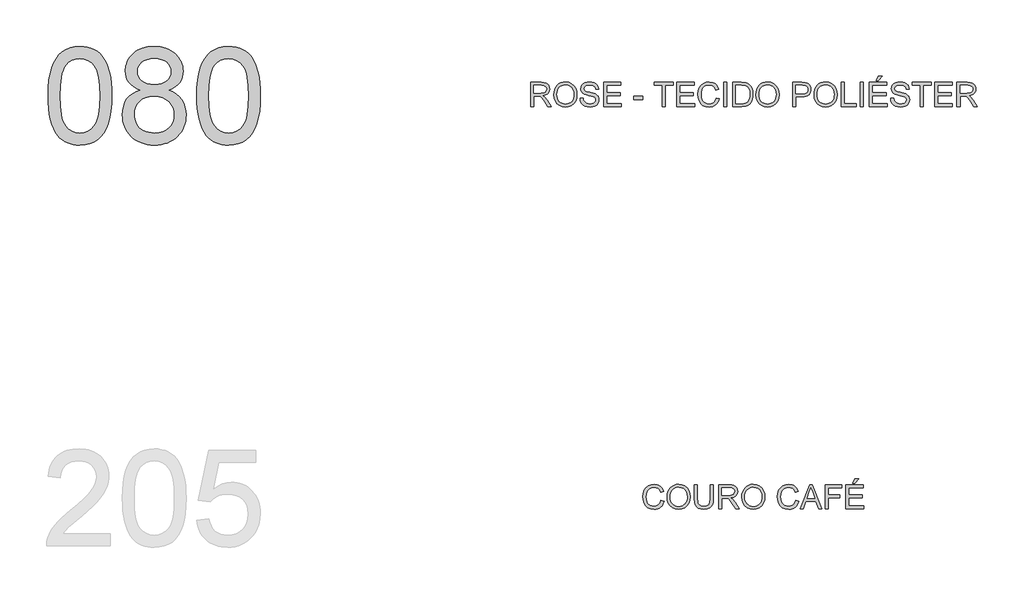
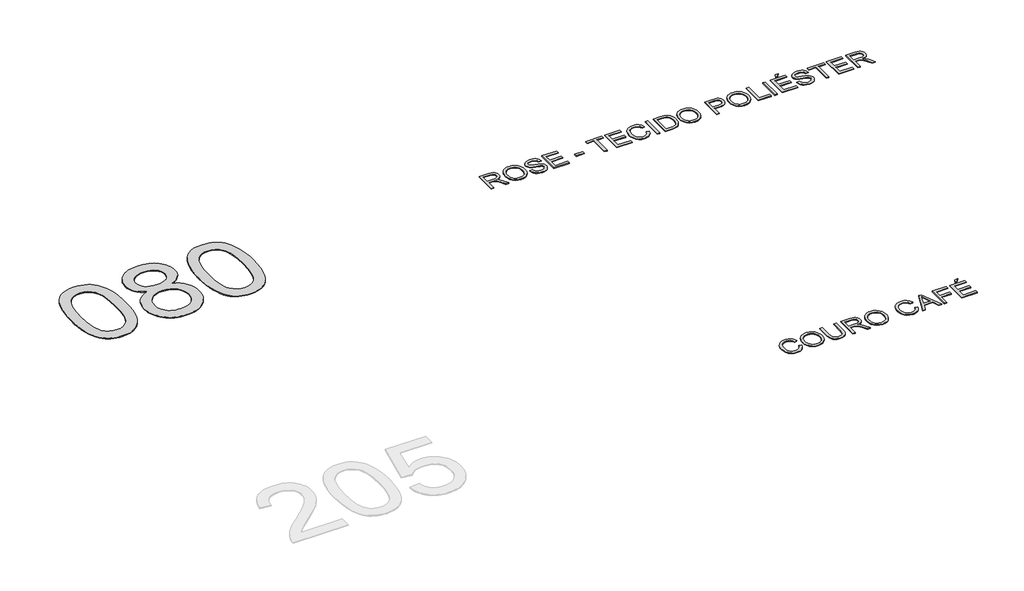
# One storey, part 4 of 35: 3 proxies.
"""IFC4 building model written with IfcOpenShell, lengths in millimetres."""

from ifc_helpers import new_model, si_unit, origin, origin_with_axes, place, context, project, spatial, polyline, outline, extrude, element, save

model = new_model("IFC4")

# Units and contexts
model_context = context("Model", 3, world=origin())
ifc_project = project(units=[si_unit("LENGTHUNIT", "METRE", prefix="MILLI")], contexts=[model_context])

# Site, building, storey
site = spatial("IfcSite", under=ifc_project)
building = spatial("IfcBuilding", under=site)
storey = spatial("IfcBuildingStorey", under=building, Name="Marelli - Linha YOU - Planta Baixa", Elevation=0.0)

# Proxies
placement = place(None, origin())
element("IfcBuildingElementProxy", 1, Name="1200mm Arial", ObjectType="1200mm Arial", at=placement, inside=storey, context=model_context, shape_type="SweptSolid", body=[
    extrude(outline(polyline([(-25181.1313792, -124895.792664), (-25178.3630672, -124794.4319773), (-25170.0581311, -124702.8385576), (-25156.2165711, -124621.0124048), (-25136.838387, -124548.953519), (-25112.0063523, -124486.073289), (-25081.8032405, -124431.7831035), (-25046.2290516, -124386.0829627), (-25005.2837855, -124348.9728664), (-24958.8294866, -124320.2596767), (-24906.728199, -124299.7502555), (-24848.9799228, -124287.4446027), (-24785.584658, -124283.3427185), (-24737.9439396, -124285.7707396), (-24692.7312424, -124293.0548031), (-24649.9465664, -124305.194909), (-24609.5899115, -124322.1910572), (-24572.6361651, -124343.7581391), (-24540.0602144, -124369.6110463), (-24511.8620595, -124399.7497788), (-24488.0417003, -124434.1743365), (-24467.4035204, -124472.7467637), (-24448.7519032, -124515.3291046), (-24417.4083572, -124612.5235278), (-24405.4337983, -124669.6831928), (-24396.8805419, -124735.9479371), (-24391.7485881, -124811.3177609), (-24390.0379368, -124895.792664), (-24392.7786576, -124996.5095573), (-24401.0008202, -125087.6431245), (-24414.7044246, -125169.1933658), (-24433.8894706, -125241.1602811), (-24458.5283672, -125304.0681023), (-24488.5935233, -125358.4410612), (-24524.0849388, -125404.2791578), (-24565.0026137, -125441.5823921), (-24611.5120949, -125470.4887199), (-24663.7789294, -125491.1360968), (-24721.8031171, -125503.524523), (-24785.584658, -125507.6539984), (-24828.2589694, -125505.8605737), (-24868.5788361, -125500.4802995), (-24906.544258, -125491.5131759), (-24942.1552351, -125478.9592028), (-24975.4117675, -125462.8183803), (-25006.3138551, -125443.0907083), (-25034.8614979, -125419.7761868), (-25061.054696, -125392.8748159), (-25089.1976686, -125350.2786794), (-25113.5882449, -125302.0999336), (-25134.2264248, -125248.3385785), (-25151.1122084, -125188.9946142), (-25164.2455956, -125124.0680406), (-25173.6265865, -125053.5588577), (-25179.255181, -124977.4670655), (-25181.1313792, -124895.792664)]), holes=[polyline([(-25030.446914, -124895.4983584), (-25026.03233, -125026.4919399), (-25012.7885782, -125132.5247279), (-25002.8557643, -125176.1808245), (-24990.7156585, -125213.5967226), (-24976.3682607, -125244.7724225), (-24959.8135709, -125269.7079239), (-24922.4367602, -125307.884878), (-24880.9396711, -125335.1541309), (-24835.3223037, -125351.5156826), (-24785.584658, -125356.9695332), (-24735.8470122, -125351.4972885), (-24690.2296448, -125335.0805545), (-24648.7325558, -125307.7193311), (-24611.3557451, -125269.4136183), (-24594.8010553, -125244.418336), (-24580.4536575, -125213.2104465), (-24568.3135516, -125175.7899498), (-24558.3807378, -125132.1568459), (-24545.1369859, -125026.2528166), (-24540.722402, -124895.4983584), (-24544.9898331, -124767.9720648), (-24557.7921266, -124663.8062779), (-24567.3938467, -124620.4835744), (-24579.1292823, -124583.0009976), (-24592.9984335, -124551.3585475), (-24609.0013003, -124525.5562241), (-24645.7527116, -124485.5122689), (-24687.7280473, -124456.9094438), (-24734.9273073, -124439.7477487), (-24787.3504916, -124434.0271837), (-24836.8306199, -124439.067167), (-24881.6754351, -124454.187117), (-24921.8849372, -124479.3870337), (-24957.4591261, -124514.666917), (-24974.5656389, -124543.2145599), (-24989.3912833, -124577.2068562), (-25001.9360594, -124616.6438061), (-25012.199967, -124661.5254095), (-25025.8851772, -124767.6225769), (-25030.446914, -124895.4983584)])]), origin_with_axes(), (0.0, 0.0, 1.0), 10.0),
    extrude(outline(polyline([(-24038.637055, -124824.8650154), (-24081.9827511, -124806.7652212), (-24119.3135765, -124785.1337599), (-24150.6295314, -124759.9706314), (-24175.9306156, -124731.2758358), (-24195.4375584, -124699.3252845), (-24209.3710889, -124664.3948891), (-24217.7312073, -124626.4846495), (-24220.5179134, -124585.5945657), (-24214.4478605, -124524.1398784), (-24206.8602943, -124495.3301197), (-24196.2377017, -124467.7987509), (-24182.5800826, -124441.545772), (-24165.8874371, -124416.571183), (-24123.3970667, -124370.4571749), (-24098.109778, -124350.0397242), (-24070.8083355, -124332.3446002), (-24041.492739, -124317.371803), (-24010.1629886, -124305.1213326), (-23941.461026, -124288.787372), (-23864.7024477, -124283.3427185), (-23787.5759874, -124288.9161307), (-23718.35899, -124305.6363674), (-23686.7165399, -124318.1765449), (-23657.0514555, -124333.5034285), (-23629.3637368, -124351.6170183), (-23603.6533839, -124372.5173141), (-23560.3904613, -124419.5326331), (-23543.3943131, -124444.8613085), (-23529.4883737, -124471.4039944), (-23518.672643, -124499.1606909), (-23510.9471211, -124528.1313981), (-23506.311808, -124558.3161158), (-23504.7667036, -124589.7148441), (-23507.5166215, -124629.160991), (-23515.7663752, -124665.9767817), (-23529.5159648, -124700.1622161), (-23548.7653902, -124731.7172942), (-23573.6066219, -124760.2189518), (-23604.1316305, -124785.2441245), (-23640.3404159, -124806.7928124), (-23682.2329781, -124824.8650154), (-23632.7068645, -124845.9354566), (-23589.4899271, -124872.6528865), (-23552.5821659, -124905.0173051), (-23521.983581, -124943.0287122), (-23497.9700837, -124985.8409794), (-23480.8175857, -125032.607978), (-23470.5260869, -125083.3297081), (-23467.0955873, -125138.0061697), (-23468.7970415, -125176.3670647), (-23473.9014042, -125213.1644613), (-23482.4086753, -125248.3983594), (-23494.3188549, -125282.068759), (-23509.631943, -125314.1756601), (-23528.3479395, -125344.7190628), (-23550.4668444, -125373.6989669), (-23575.9886578, -125401.1153726), (-23604.2879803, -125426.085363), (-23634.7394125, -125447.7260214), (-23667.3429543, -125466.0373477), (-23702.0986058, -125481.019342), (-23739.006367, -125492.6720042), (-23778.0662378, -125500.9953343), (-23819.2782183, -125505.9893324), (-23862.6423085, -125507.6539984), (-23906.0063987, -125505.9824346), (-23947.2183792, -125500.9677432), (-23986.27825, -125492.6099241), (-24023.1860112, -125480.9089774), (-24057.9416627, -125465.864903), (-24090.5452045, -125447.4777011), (-24120.9966367, -125425.7473715), (-24149.2959591, -125400.6739142), (-24174.8177725, -125373.1034579), (-24196.9366775, -125343.8821312), (-24215.652674, -125313.009934), (-24230.9657621, -125280.4868664), (-24242.8759417, -125246.3129283), (-24251.3832128, -125210.4881198), (-24256.4875755, -125173.0124408), (-24258.1890297, -125133.8858913), (-24254.6205744, -125076.7170293), (-24243.9152083, -125024.4042096), (-24226.0729315, -124976.9474322), (-24201.0937441, -124934.3466971), (-24169.5294689, -124897.3745566), (-24131.931929, -124866.8035628), (-24088.3011243, -124842.6337157), (-24038.637055, -124824.8650154)]), holes=[polyline([(-24069.8334482, -124590.0091497), (-24066.4949191, -124624.553269), (-24056.4793317, -124655.7864504), (-24039.7866862, -124683.7086938), (-24016.4169825, -124708.3199993), (-23986.6645261, -124728.4063562), (-23950.8236227, -124742.753754), (-23908.8942723, -124751.3621927), (-23860.8764749, -124754.2316723), (-23814.0450969, -124751.3805868), (-23773.0262545, -124742.8273304), (-23737.8199475, -124728.5719031), (-23708.4261761, -124708.6143049), (-23685.2496104, -124684.5180342), (-23668.6949206, -124657.8465896), (-23658.7621068, -124628.5999709), (-23655.4511688, -124596.7781784), (-23658.8724714, -124563.714784), (-23669.136379, -124533.3921106), (-23686.2428918, -124505.810158), (-23710.1920097, -124480.9689263), (-23740.2479687, -124460.4319139), (-23775.6750048, -124445.7626193), (-23816.4731181, -124436.9610426), (-23862.6423085, -124434.0271837), (-23909.1701838, -124436.8966633), (-23950.1614351, -124445.5051019), (-23985.6160624, -124459.8524998), (-24015.5340657, -124479.9388567), (-24039.2900455, -124504.0351274), (-24056.2586026, -124530.4122664), (-24066.4397368, -124559.0702739), (-24069.8334482, -124590.0091497)]), polyline([(-24107.5045645, -125128.5883906), (-24105.931869, -125157.6418712), (-24101.2137824, -125186.2354992), (-24082.341436, -125242.0431979), (-24067.3410477, -125267.9328933), (-24047.5030111, -125290.7139859), (-24022.8273262, -125310.3864756), (-23993.3139932, -125326.9503624), (-23961.1243186, -125340.0837496), (-23928.4196092, -125349.4647405), (-23895.1998651, -125355.093335), (-23861.4650861, -125356.9695332), (-23806.9817626, -125353.0239988), (-23758.8995859, -125341.1873956), (-23717.2185558, -125321.4597236), (-23681.9386725, -125293.8409828), (-23653.8692762, -125260.133795), (-23633.8197075, -125222.140782), (-23621.7899662, -125179.8619437), (-23617.7800525, -125133.2972801), (-23621.9187249, -125085.9876555), (-23634.3347423, -125042.9454621), (-23655.0281045, -125004.1706998), (-23683.9988116, -124969.6633687), (-23720.2351882, -124941.336455), (-23762.7255586, -124921.1029453), (-23811.469923, -124908.9628395), (-23866.4682812, -124904.9161375), (-23920.1514614, -124908.9076572), (-23967.5990417, -124920.8822161), (-24008.8110222, -124940.8398144), (-24043.7874029, -124968.7804519), (-24071.6636611, -125002.7175659), (-24091.5752741, -125040.6645937), (-24103.5222419, -125082.6215353), (-24107.5045645, -125128.5883906)])]), origin_with_axes(), (0.0, 0.0, 1.0), 10.0),
    extrude(outline(polyline([(-23335.2466802, -124895.792664), (-23332.4783682, -124794.4319773), (-23324.1734321, -124702.8385576), (-23310.3318721, -124621.0124048), (-23290.953688, -124548.953519), (-23266.1216533, -124486.073289), (-23235.9185415, -124431.7831035), (-23200.3443526, -124386.0829627), (-23159.3990865, -124348.9728664), (-23112.9447876, -124320.2596767), (-23060.8435, -124299.7502555), (-23003.0952238, -124287.4446027), (-22939.699959, -124283.3427185), (-22892.0592406, -124285.7707396), (-22846.8465434, -124293.0548031), (-22804.0618674, -124305.194909), (-22763.7052125, -124322.1910572), (-22726.7514661, -124343.7581391), (-22694.1755154, -124369.6110463), (-22665.9773605, -124399.7497788), (-22642.1570013, -124434.1743365), (-22621.5188214, -124472.7467637), (-22602.8672042, -124515.3291046), (-22571.5236582, -124612.5235278), (-22559.5490993, -124669.6831928), (-22550.9958429, -124735.9479371), (-22545.8638891, -124811.3177609), (-22544.1532378, -124895.792664), (-22546.8939586, -124996.5095573), (-22555.1161212, -125087.6431245), (-22568.8197256, -125169.1933658), (-22588.0047716, -125241.1602811), (-22612.6436682, -125304.0681023), (-22642.7088243, -125358.4410612), (-22678.2002398, -125404.2791578), (-22719.1179147, -125441.5823921), (-22765.6273959, -125470.4887199), (-22817.8942304, -125491.1360968), (-22875.9184181, -125503.524523), (-22939.699959, -125507.6539984), (-22982.3742704, -125505.8605737), (-23022.6941371, -125500.4802995), (-23060.659559, -125491.5131759), (-23096.2705361, -125478.9592028), (-23129.5270685, -125462.8183803), (-23160.4291561, -125443.0907083), (-23188.9767989, -125419.7761868), (-23215.169997, -125392.8748159), (-23243.3129696, -125350.2786794), (-23267.7035459, -125302.0999336), (-23288.3417258, -125248.3385785), (-23305.2275094, -125188.9946142), (-23318.3608966, -125124.0680406), (-23327.7418875, -125053.5588577), (-23333.370482, -124977.4670655), (-23335.2466802, -124895.792664)]), holes=[polyline([(-23184.562215, -124895.4983584), (-23180.147631, -125026.4919399), (-23166.9038792, -125132.5247279), (-23156.9710653, -125176.1808245), (-23144.8309595, -125213.5967226), (-23130.4835617, -125244.7724225), (-23113.9288719, -125269.7079239), (-23076.5520612, -125307.884878), (-23035.0549721, -125335.1541309), (-22989.4376047, -125351.5156826), (-22939.699959, -125356.9695332), (-22889.9623132, -125351.4972885), (-22844.3449458, -125335.0805545), (-22802.8478568, -125307.7193311), (-22765.4710461, -125269.4136183), (-22748.9163563, -125244.418336), (-22734.5689585, -125213.2104465), (-22722.4288526, -125175.7899498), (-22712.4960388, -125132.1568459), (-22699.2522869, -125026.2528166), (-22694.837703, -124895.4983584), (-22699.1051341, -124767.9720648), (-22711.9074276, -124663.8062779), (-22721.5091477, -124620.4835744), (-22733.2445833, -124583.0009976), (-22747.1137345, -124551.3585475), (-22763.1166013, -124525.5562241), (-22799.8680126, -124485.5122689), (-22841.8433483, -124456.9094438), (-22889.0426083, -124439.7477487), (-22941.4657926, -124434.0271837), (-22990.9459209, -124439.067167), (-23035.7907361, -124454.187117), (-23076.0002382, -124479.3870337), (-23111.5744271, -124514.666917), (-23128.6809399, -124543.2145599), (-23143.5065843, -124577.2068562), (-23156.0513604, -124616.6438061), (-23166.315268, -124661.5254095), (-23180.0004782, -124767.6225769), (-23184.562215, -124895.4983584)])]), origin_with_axes(), (0.0, 0.0, 1.0), 10.0),
])
element("IfcBuildingElementProxy", 2, Name="300mm Arial", ObjectType="300mm Arial", at=placement, inside=storey, context=model_context, shape_type="SweptSolid", body=[
    extrude(outline(polyline([(-17570.4724751, -129923.4390831), (-17532.8013587, -129933.1511677), (-17540.2555677, -129956.5783531), (-17550.183783, -129977.0486868), (-17562.5860048, -129994.5621691), (-17577.462233, -130009.1187998), (-17594.4767752, -130020.5622291), (-17613.2939393, -130028.7361071), (-17633.9137251, -130033.640434), (-17656.3361327, -130035.2752096), (-17700.0313167, -130030.3271968), (-17734.7317859, -130015.4831583), (-17761.3296542, -129991.2581289), (-17780.7170353, -129958.1671434), (-17792.5536385, -129919.2636224), (-17796.4991729, -129877.6009865), (-17792.0386037, -129833.6574822), (-17778.6568961, -129795.7104543), (-17757.053026, -129764.9647166), (-17727.925969, -129742.6250824), (-17693.3818496, -129729.0226457), (-17655.5267923, -129724.4885001), (-17614.2228413, -129730.3562179), (-17596.2541051, -129737.6908652), (-17580.0741951, -129747.9593714), (-17565.9498258, -129760.8904235), (-17554.1477115, -129776.2127086), (-17537.5102483, -129814.0309777), (-17575.1813646, -129823.0072984), (-17588.2411754, -129795.5357104), (-17606.0834522, -129776.6909552), (-17628.9289241, -129765.7924511), (-17656.9983203, -129762.1596164), (-17689.3535418, -129766.1879242), (-17715.9330159, -129778.2728478), (-17736.1021463, -129797.1451941), (-17749.2263365, -129821.5357704), (-17756.4276266, -129849.1085259), (-17758.8280566, -129877.5274101), (-17755.9861682, -129912.3290468), (-17747.4605029, -129942.421794), (-17732.9291641, -129966.6560205), (-17712.070255, -129983.8820949), (-17687.0634764, -129994.1735937), (-17660.0885291, -129997.6040933), (-17628.6438155, -129992.931992), (-17602.4414204, -129978.9156879), (-17582.6585661, -129955.7023341), (-17570.4724751, -129923.4390831)])), origin_with_axes(), (0.0, 0.0, 1.0), 10.0),
    extrude(outline(polyline([(-17495.1302424, -129883.8549804), (-17492.6194478, -129848.5061192), (-17485.087064, -129817.213157), (-17472.5330909, -129789.9760937), (-17454.9575286, -129766.7949295), (-17433.4134392, -129748.2858666), (-17408.9538851, -129735.0651074), (-17381.5788661, -129727.1326519), (-17351.2883823, -129724.4885001), (-17311.7594619, -129729.454907), (-17276.3140317, -129744.3541278), (-17246.8834721, -129768.1376988), (-17225.3991636, -129799.7571563), (-17212.2657764, -129837.68579), (-17207.8879806, -129880.3968896), (-17212.4957026, -129923.6782064), (-17226.3188686, -129962.140269), (-17248.5941234, -129993.8149088), (-17278.5581119, -130016.7339571), (-17313.7000395, -130030.6398965), (-17351.5091115, -130035.2752096), (-17391.6450372, -130030.1524528), (-17427.2928025, -130014.7841825), (-17456.6497857, -129990.5591531), (-17477.9133651, -129958.8661192), (-17490.8260231, -129922.3998164), (-17495.1302424, -129883.8549804)]), holes=[polyline([(-17457.4591261, -129884.2228624), (-17455.5760302, -129909.1974513), (-17449.9267423, -129931.3669401), (-17440.5112625, -129950.7313286), (-17427.3295907, -129967.2906169), (-17411.3060306, -129980.5527628), (-17393.3648855, -129990.0257242), (-17373.5061556, -129995.709501), (-17351.7298407, -129997.6040933), (-17329.5810454, -129995.6911069), (-17309.4877906, -129989.9521478), (-17291.4500766, -129980.3872159), (-17275.4679031, -129966.9963113), (-17262.3828004, -129950.0875351), (-17253.0362985, -129929.9689885), (-17247.4283973, -129906.6406715), (-17245.5590969, -129880.102584), (-17248.7596703, -129846.7540812), (-17258.3613903, -129817.9305269), (-17274.1159368, -129794.358488), (-17295.7749893, -129776.7645316), (-17321.903808, -129765.8108452), (-17351.0676531, -129762.1596164), (-17372.0875106, -129763.9185522), (-17391.5898549, -129769.1953595), (-17409.5746859, -129777.9900385), (-17426.0420037, -129790.302589), (-17439.7869948, -129806.7262208), (-17449.6048455, -129827.8541437), (-17455.495556, -129853.6863575), (-17457.4591261, -129884.2228624)])]), origin_with_axes(), (0.0, 0.0, 1.0), 10.0),
    extrude(outline(polyline([(-16958.3168351, -129729.1973896), (-16920.6457188, -129729.1973896), (-16920.6457188, -129903.0584205), (-16923.2024986, -129943.7737604), (-16930.8728382, -129975.1265034), (-16945.201842, -129999.3147446), (-16967.7346142, -130018.5365788), (-16998.5263372, -130031.0905519), (-17037.6321932, -130035.2752096), (-17075.8827237, -130031.6331779), (-17106.4629145, -130020.7070826), (-17129.3819628, -130002.8740029), (-17144.6490656, -129978.5110178), (-17153.2299132, -129945.8338995), (-17156.0901957, -129903.0584205), (-17156.0901957, -129729.1973896), (-17118.4190794, -129729.1973896), (-17118.4190794, -129901.7340454), (-17116.5612753, -129935.588386), (-17110.9878631, -129959.1604248), (-17100.8895023, -129975.4851883), (-17085.4568526, -129987.597703), (-17065.3337075, -129995.1024957), (-17041.1638604, -129997.6040933), (-17002.8489506, -129992.6560805), (-16988.5061513, -129986.4710644), (-16977.3731224, -129977.812042), (-16969.0359967, -129965.6351479), (-16963.0809069, -129948.8965171), (-16958.3168351, -129901.7340454), (-16958.3168351, -129729.1973896)])), origin_with_axes(), (0.0, 0.0, 1.0), 10.0),
    extrude(outline(polyline([(-16854.7212652, -130030.5663201), (-16854.7212652, -129729.1973896), (-16724.8589209, -129729.1973896), (-16689.9561166, -129731.2299376), (-16664.5630619, -129737.3275817), (-16646.0034153, -129748.5847708), (-16631.6008352, -129766.0959537), (-16622.3578, -129787.8101885), (-16619.2767883, -129811.6765329), (-16624.381151, -129841.3646099), (-16639.6942391, -129865.9759154), (-16651.2940182, -129876.0052983), (-16665.675905, -129884.0205273), (-16702.7860012, -129894.0085235), (-16681.3752691, -129910.1217548), (-16650.8410635, -129948.8965171), (-16600.588383, -130030.5663201), (-16644.3663404, -130030.5663201), (-16683.5825611, -129968.0999573), (-16711.9094747, -129926.750021), (-16731.8118907, -129907.2154871), (-16749.7277438, -129900.0417882), (-16771.5799343, -129898.717413), (-16817.0501489, -129898.717413), (-16817.0501489, -130030.5663201), (-16854.7212652, -130030.5663201)]), holes=[polyline([(-16817.0501489, -129861.0462967), (-16732.7315956, -129861.0462967), (-16708.5157633, -129859.7127245), (-16689.7261904, -129855.7120078), (-16675.5811277, -129848.7774322), (-16665.2988259, -129838.6422832), (-16659.035635, -129826.3826157), (-16656.9479046, -129813.0744845), (-16660.9302272, -129794.6987789), (-16672.877195, -129779.8915286), (-16693.4326015, -129770.1242616), (-16723.2402402, -129766.8685059), (-16817.0501489, -129766.8685059), (-16817.0501489, -129861.0462967)])]), origin_with_axes(), (0.0, 0.0, 1.0), 10.0),
    extrude(outline(polyline([(-16567.4790034, -129883.8549804), (-16564.9682088, -129848.5061192), (-16557.4358249, -129817.213157), (-16544.8818519, -129789.9760937), (-16527.3062895, -129766.7949295), (-16505.7622002, -129748.2858666), (-16481.302646, -129735.0651074), (-16453.9276271, -129727.1326519), (-16423.6371433, -129724.4885001), (-16384.1082229, -129729.454907), (-16348.6627927, -129744.3541278), (-16319.2322331, -129768.1376988), (-16297.7479245, -129799.7571563), (-16284.6145373, -129837.68579), (-16280.2367416, -129880.3968896), (-16284.8444636, -129923.6782064), (-16298.6676295, -129962.140269), (-16320.9428843, -129993.8149088), (-16350.9068728, -130016.7339571), (-16386.0488004, -130030.6398965), (-16423.8578725, -130035.2752096), (-16463.9937982, -130030.1524528), (-16499.6415635, -130014.7841825), (-16528.9985467, -129990.5591531), (-16550.262126, -129958.8661192), (-16563.1747841, -129922.3998164), (-16567.4790034, -129883.8549804)]), holes=[polyline([(-16529.8078871, -129884.2228624), (-16527.9247911, -129909.1974513), (-16522.2755032, -129931.3669401), (-16512.8600234, -129950.7313286), (-16499.6783517, -129967.2906169), (-16483.6547915, -129980.5527628), (-16465.7136465, -129990.0257242), (-16445.8549165, -129995.709501), (-16424.0786017, -129997.6040933), (-16401.9298063, -129995.6911069), (-16381.8365516, -129989.9521478), (-16363.7988375, -129980.3872159), (-16347.8166641, -129966.9963113), (-16334.7315614, -129950.0875351), (-16325.3850594, -129929.9689885), (-16319.7771583, -129906.6406715), (-16317.9078579, -129880.102584), (-16321.1084312, -129846.7540812), (-16330.7101513, -129817.9305269), (-16346.4646978, -129794.358488), (-16368.1237502, -129776.7645316), (-16394.2525689, -129765.8108452), (-16423.4164141, -129762.1596164), (-16444.4362716, -129763.9185522), (-16463.9386159, -129769.1953595), (-16481.9234469, -129777.9900385), (-16498.3907647, -129790.302589), (-16512.1357558, -129806.7262208), (-16521.9536065, -129827.8541437), (-16527.8443169, -129853.6863575), (-16529.8078871, -129884.2228624)])]), origin_with_axes(), (0.0, 0.0, 1.0), 10.0),
    extrude(outline(polyline([(-15898.816689, -129923.4390831), (-15861.1455727, -129933.1511677), (-15868.5997816, -129956.5783531), (-15878.5279969, -129977.0486868), (-15890.9302187, -129994.5621691), (-15905.8064469, -130009.1187998), (-15922.8209892, -130020.5622291), (-15941.6381532, -130028.7361071), (-15962.257939, -130033.640434), (-15984.6803466, -130035.2752096), (-16028.3755306, -130030.3271968), (-16063.0759998, -130015.4831583), (-16089.6738681, -129991.2581289), (-16109.0612492, -129958.1671434), (-16120.8978524, -129919.2636224), (-16124.8433868, -129877.6009865), (-16120.3828176, -129833.6574822), (-16107.00111, -129795.7104543), (-16085.3972399, -129764.9647166), (-16056.2701829, -129742.6250824), (-16021.7260636, -129729.0226457), (-15983.8710063, -129724.4885001), (-15942.5670552, -129730.3562179), (-15924.598319, -129737.6908652), (-15908.418409, -129747.9593714), (-15894.2940397, -129760.8904235), (-15882.4919254, -129776.2127086), (-15865.8544622, -129814.0309777), (-15903.5255785, -129823.0072984), (-15916.5853893, -129795.5357104), (-15934.4276661, -129776.6909552), (-15957.273138, -129765.7924511), (-15985.3425342, -129762.1596164), (-16017.6977557, -129766.1879242), (-16044.2772299, -129778.2728478), (-16064.4463603, -129797.1451941), (-16077.5705504, -129821.5357704), (-16084.7718405, -129849.1085259), (-16087.1722705, -129877.5274101), (-16084.3303821, -129912.3290468), (-16075.8047169, -129942.421794), (-16061.273378, -129966.6560205), (-16040.4144689, -129983.8820949), (-16015.4076903, -129994.1735937), (-15988.432743, -129997.6040933), (-15956.9880295, -129992.931992), (-15930.7856344, -129978.9156879), (-15911.0027801, -129955.7023341), (-15898.816689, -129923.4390831)])), origin_with_axes(), (0.0, 0.0, 1.0), 10.0),
    extrude(outline(polyline([(-15844.4437301, -130030.5663201), (-15724.1463177, -129729.1973896), (-15692.0670077, -129729.1973896), (-15571.7695953, -130030.5663201), (-15611.5744271, -130030.5663201), (-15646.0817583, -129936.3885293), (-15770.2051435, -129936.3885293), (-15804.6388982, -130030.5663201), (-15844.4437301, -130030.5663201)]), holes=[polyline([(-15756.3727804, -129898.717413), (-15659.8405449, -129898.717413), (-15686.9902361, -129824.6259792), (-15708.1066627, -129766.8685059), (-15726.8686444, -129818.1512561), (-15756.3727804, -129898.717413)])]), origin_with_axes(), (0.0, 0.0, 1.0), 10.0),
    extrude(outline(polyline([(-15531.523305, -130030.5663201), (-15531.523305, -129729.1973896), (-15329.0410548, -129729.1973896), (-15329.0410548, -129766.8685059), (-15493.8521887, -129766.8685059), (-15493.8521887, -129856.3374072), (-15352.5855025, -129856.3374072), (-15352.5855025, -129894.0085235), (-15493.8521887, -129894.0085235), (-15493.8521887, -130030.5663201), (-15531.523305, -130030.5663201)])), origin_with_axes(), (0.0, 0.0, 1.0), 10.0),
    extrude(outline(polyline([(-15277.2432699, -130030.5663201), (-15277.2432699, -129729.1973896), (-15060.6343512, -129729.1973896), (-15060.6343512, -129766.8685059), (-15239.5721536, -129766.8685059), (-15239.5721536, -129856.3374072), (-15070.0521302, -129856.3374072), (-15070.0521302, -129894.0085235), (-15239.5721536, -129894.0085235), (-15239.5721536, -129992.8952038), (-15055.9254616, -129992.8952038), (-15055.9254616, -130030.5663201), (-15277.2432699, -130030.5663201)])), origin_with_axes(), (0.0, 0.0, 1.0), 10.0),
    extrude(outline(polyline([(-15192.4832582, -129710.3618315), (-15164.229921, -129653.855157), (-15117.1410256, -129653.855157), (-15164.229921, -129710.3618315), (-15192.4832582, -129710.3618315)])), origin_with_axes(), (0.0, 0.0, 1.0), 10.0),
])
element("IfcBuildingElementProxy", 3, Name="300mm Arial", ObjectType="300mm Arial", at=placement, inside=storey, context=model_context, shape_type="SweptSolid", body=[
    extrude(outline(polyline([(-19187.9760314, -125030.5663201), (-19187.9760314, -124729.1973896), (-19058.1136872, -124729.1973896), (-19023.2108829, -124731.2299376), (-18997.8178281, -124737.3275817), (-18979.2581815, -124748.5847708), (-18964.8556014, -124766.0959537), (-18955.6125662, -124787.8101885), (-18952.5315545, -124811.6765329), (-18957.6359172, -124841.3646099), (-18972.9490053, -124865.9759154), (-18984.5487844, -124876.0052983), (-18998.9306712, -124884.0205273), (-19036.0407674, -124894.0085235), (-19014.6300353, -124910.1217548), (-18984.0958297, -124948.8965171), (-18933.8431492, -125030.5663201), (-18977.6211066, -125030.5663201), (-19016.8373273, -124968.0999573), (-19045.1642409, -124926.750021), (-19065.0666569, -124907.2154871), (-19082.98251, -124900.0417882), (-19104.8347005, -124898.717413), (-19150.3049151, -124898.717413), (-19150.3049151, -125030.5663201), (-19187.9760314, -125030.5663201)]), holes=[polyline([(-19150.3049151, -124861.0462967), (-19065.9863618, -124861.0462967), (-19041.7705295, -124859.7127245), (-19022.9809566, -124855.7120078), (-19008.8358939, -124848.7774322), (-18998.5535921, -124838.6422832), (-18992.2904012, -124826.3826157), (-18990.2026708, -124813.0744845), (-18994.1849934, -124794.6987789), (-19006.1319612, -124779.8915286), (-19026.6873677, -124770.1242616), (-19056.4950064, -124766.8685059), (-19150.3049151, -124766.8685059), (-19150.3049151, -124861.0462967)])]), origin_with_axes(), (0.0, 0.0, 1.0), 10.0),
    extrude(outline(polyline([(-18900.7337696, -124883.8549804), (-18898.222975, -124848.5061192), (-18890.6905911, -124817.213157), (-18878.1366181, -124789.9760937), (-18860.5610557, -124766.7949295), (-18839.0169664, -124748.2858666), (-18814.5574122, -124735.0651074), (-18787.1823933, -124727.1326519), (-18756.8919095, -124724.4885001), (-18717.3629891, -124729.454907), (-18681.9175589, -124744.3541278), (-18652.4869993, -124768.1376988), (-18631.0026908, -124799.7571563), (-18617.8693035, -124837.68579), (-18613.4915078, -124880.3968896), (-18618.0992298, -124923.6782064), (-18631.9223957, -124962.140269), (-18654.1976505, -124993.8149088), (-18684.1616391, -125016.7339571), (-18719.3035666, -125030.6398965), (-18757.1126387, -125035.2752096), (-18797.2485644, -125030.1524528), (-18832.8963297, -125014.7841825), (-18862.2533129, -124990.5591531), (-18883.5168922, -124958.8661192), (-18896.4295503, -124922.3998164), (-18900.7337696, -124883.8549804)]), holes=[polyline([(-18863.0626533, -124884.2228624), (-18861.1795573, -124909.1974513), (-18855.5302695, -124931.3669401), (-18846.1147896, -124950.7313286), (-18832.9331179, -124967.2906169), (-18816.9095578, -124980.5527628), (-18798.9684127, -124990.0257242), (-18779.1096827, -124995.709501), (-18757.3333679, -124997.6040933), (-18735.1845725, -124995.6911069), (-18715.0913178, -124989.9521478), (-18697.0536037, -124980.3872159), (-18681.0714303, -124966.9963113), (-18667.9863276, -124950.0875351), (-18658.6398256, -124929.9689885), (-18653.0319245, -124906.6406715), (-18651.1626241, -124880.102584), (-18654.3631974, -124846.7540812), (-18663.9649175, -124817.9305269), (-18679.719464, -124794.358488), (-18701.3785164, -124776.7645316), (-18727.5073351, -124765.8108452), (-18756.6711803, -124762.1596164), (-18777.6910378, -124763.9185522), (-18797.1933821, -124769.1953595), (-18815.1782131, -124777.9900385), (-18831.6455309, -124790.302589), (-18845.390522, -124806.7262208), (-18855.2083727, -124827.8541437), (-18861.0990832, -124853.6863575), (-18863.0626533, -124884.2228624)])]), origin_with_axes(), (0.0, 0.0, 1.0), 10.0),
    extrude(outline(polyline([(-18575.8203915, -124926.9707502), (-18538.1492752, -124926.9707502), (-18533.8266617, -124947.8756446), (-18526.0091693, -124964.6786547), (-18513.8138812, -124978.0143771), (-18496.3578805, -124988.517408), (-18475.0207248, -124995.332422), (-18451.1819715, -124997.6040933), (-18430.1943037, -124995.884245), (-18411.818598, -124990.7247), (-18396.9285743, -124982.5577197), (-18386.3979522, -124971.8155654), (-18380.1347612, -124959.4823216), (-18378.0470309, -124946.5420724), (-18379.6105293, -124933.932917), (-18384.3010248, -124923.0344129), (-18393.8291685, -124913.7361955), (-18409.9056116, -124905.9279001), (-18464.7568171, -124891.5437141), (-18500.7632674, -124882.0247675), (-18523.8018774, -124872.9656733), (-18542.5546621, -124860.2921386), (-18555.8443991, -124844.9330653), (-18563.7630591, -124827.2195472), (-18566.4026124, -124807.4826782), (-18563.1376597, -124785.4189555), (-18553.3428016, -124764.845155), (-18537.2755554, -124747.4075484), (-18515.1934387, -124734.7524077), (-18488.6875409, -124727.054477), (-18459.3489518, -124724.4885001), (-18427.5639474, -124727.1740386), (-18399.7520686, -124735.2306543), (-18376.9065967, -124748.4928003), (-18360.0208131, -124766.7949295), (-18349.3338411, -124788.9966079), (-18345.0848041, -124813.9574013), (-18382.7559204, -124813.9574013), (-18389.6721019, -124791.4798114), (-18404.0930761, -124775.2562154), (-18426.6258483, -124765.4337661), (-18457.8774238, -124762.1596164), (-18489.8647633, -124765.3969779), (-18511.8089243, -124775.1090626), (-18524.5008531, -124789.4012781), (-18528.7314961, -124806.3790322), (-18525.7332578, -124820.8551887), (-18516.738543, -124832.4986539), (-18495.4749637, -124842.9097143), (-18455.2286735, -124853.541504), (-18413.6947962, -124863.6398648), (-18388.5684559, -124872.4506385), (-18367.0933445, -124886.1174547), (-18352.1113502, -124902.9848441), (-18343.3097735, -124922.868866), (-18340.3759146, -124945.5855792), (-18343.7512319, -124968.8081301), (-18353.8771838, -124990.6511236), (-18370.3399031, -125009.4498935), (-18392.7255225, -125023.539774), (-18419.6452875, -125032.3413507), (-18449.7104435, -125035.2752096), (-18486.6182047, -125032.1114244), (-18516.9960604, -125022.620069), (-18541.1934987, -125006.764355), (-18559.5600073, -124984.5074943), (-18571.3506252, -124957.3945912), (-18575.8203915, -124926.9707502)])), origin_with_axes(), (0.0, 0.0, 1.0), 10.0),
    extrude(outline(polyline([(-18283.8692401, -125030.5663201), (-18283.8692401, -124729.1973896), (-18067.2603213, -124729.1973896), (-18067.2603213, -124766.8685059), (-18246.1981238, -124766.8685059), (-18246.1981238, -124856.3374072), (-18076.6781004, -124856.3374072), (-18076.6781004, -124894.0085235), (-18246.1981238, -124894.0085235), (-18246.1981238, -124992.8952038), (-18062.5514318, -124992.8952038), (-18062.5514318, -125030.5663201), (-18283.8692401, -125030.5663201)])), origin_with_axes(), (0.0, 0.0, 1.0), 10.0),
    extrude(outline(polyline([(-17911.8669666, -124941.0974188), (-17911.8669666, -124903.4263025), (-17794.1447281, -124903.4263025), (-17794.1447281, -124941.0974188), (-17911.8669666, -124941.0974188)])), origin_with_axes(), (0.0, 0.0, 1.0), 10.0),
    extrude(outline(polyline([(-17553.9913617, -125030.5663201), (-17553.9913617, -124766.8685059), (-17652.878042, -124766.8685059), (-17652.878042, -124729.1973896), (-17417.4335651, -124729.1973896), (-17417.4335651, -124766.8685059), (-17516.3202454, -124766.8685059), (-17516.3202454, -125030.5663201), (-17553.9913617, -125030.5663201)])), origin_with_axes(), (0.0, 0.0, 1.0), 10.0),
    extrude(outline(polyline([(-17375.0535592, -125030.5663201), (-17375.0535592, -124729.1973896), (-17158.4446405, -124729.1973896), (-17158.4446405, -124766.8685059), (-17337.3824429, -124766.8685059), (-17337.3824429, -124856.3374072), (-17167.8624195, -124856.3374072), (-17167.8624195, -124894.0085235), (-17337.3824429, -124894.0085235), (-17337.3824429, -124992.8952038), (-17153.7357509, -124992.8952038), (-17153.7357509, -125030.5663201), (-17375.0535592, -125030.5663201)])), origin_with_axes(), (0.0, 0.0, 1.0), 10.0),
    extrude(outline(polyline([(-16885.3290472, -124923.4390831), (-16847.6579309, -124933.1511677), (-16855.1121399, -124956.5783531), (-16865.0403552, -124977.0486868), (-16877.442577, -124994.5621691), (-16892.3188051, -125009.1187997), (-16909.3333474, -125020.5622291), (-16928.1505115, -125028.7361071), (-16948.7702973, -125033.640434), (-16971.1927049, -125035.2752096), (-17014.8878889, -125030.3271968), (-17049.5883581, -125015.4831583), (-17076.1862263, -124991.2581289), (-17095.5736075, -124958.1671434), (-17107.4102107, -124919.2636224), (-17111.3557451, -124877.6009865), (-17106.8951759, -124833.6574822), (-17093.5134683, -124795.7104543), (-17071.9095981, -124764.9647166), (-17042.7825412, -124742.6250824), (-17008.2384218, -124729.0226457), (-16970.3833645, -124724.4885001), (-16929.0794135, -124730.3562179), (-16911.1106773, -124737.6908652), (-16894.9307673, -124747.9593714), (-16880.806398, -124760.8904235), (-16869.0042837, -124776.2127086), (-16852.3668205, -124814.0309777), (-16890.0379368, -124823.0072984), (-16903.0977476, -124795.5357104), (-16920.9400244, -124776.6909552), (-16943.7854963, -124765.7924511), (-16971.8548925, -124762.1596164), (-17004.210114, -124766.1879242), (-17030.7895881, -124778.2728478), (-17050.9587185, -124797.1451941), (-17064.0829087, -124821.5357704), (-17071.2841987, -124849.1085259), (-17073.6846288, -124877.5274101), (-17070.8427404, -124912.3290468), (-17062.3170751, -124942.421794), (-17047.7857363, -124966.6560205), (-17026.9268272, -124983.8820949), (-17001.9200486, -124994.1735937), (-16974.9451013, -124997.6040933), (-16943.5003877, -124992.931992), (-16917.2979926, -124978.9156879), (-16897.5151383, -124955.7023341), (-16885.3290472, -124923.4390831)])), origin_with_axes(), (0.0, 0.0, 1.0), 10.0),
    extrude(outline(polyline([(-16791.1512565, -125030.5663201), (-16791.1512565, -124729.1973896), (-16753.4801402, -124729.1973896), (-16753.4801402, -125030.5663201), (-16791.1512565, -125030.5663201)])), origin_with_axes(), (0.0, 0.0, 1.0), 10.0),
    extrude(outline(polyline([(-16678.1379076, -125030.5663201), (-16678.1379076, -124729.1973896), (-16574.1744557, -124729.1973896), (-16520.390108, -124733.5383972), (-16496.3674137, -124741.9077126), (-16476.0971158, -124755.0962821), (-16455.2566008, -124778.0521186), (-16440.4125623, -124806.5997614), (-16431.5282121, -124840.1873876), (-16428.566762, -124878.2631741), (-16430.5717189, -124910.6091985), (-16436.5865895, -124939.0740679), (-16445.7468512, -124963.3082943), (-16457.1879813, -124982.9623899), (-16470.3581567, -124998.477813), (-16484.7055545, -125010.2960221), (-16501.1774708, -125019.0608107), (-16520.7212018, -125025.4159721), (-16569.1712606, -125030.5663201), (-16678.1379076, -125030.5663201)]), holes=[polyline([(-16640.4667912, -124992.8952038), (-16573.8065737, -124992.8952038), (-16546.2338182, -124991.5340404), (-16525.3197268, -124987.4505502), (-16509.5375892, -124980.8838566), (-16497.3606951, -124972.0730828), (-16484.2732931, -124955.7667134), (-16474.4416468, -124934.6594839), (-16468.2888205, -124908.6594239), (-16466.2378783, -124877.6745629), (-16470.2569891, -124836.6189322), (-16482.3143215, -124806.3054558), (-16500.1290071, -124785.4833349), (-16521.4201776, -124772.9017706), (-16543.0884271, -124768.3768221), (-16574.8366433, -124766.8685059), (-16640.4667912, -124766.8685059), (-16640.4667912, -124992.8952038)])]), origin_with_axes(), (0.0, 0.0, 1.0), 10.0),
    extrude(outline(polyline([(-16390.8956457, -124883.8549804), (-16388.3848511, -124848.5061192), (-16380.8524673, -124817.213157), (-16368.2984942, -124789.9760937), (-16350.7229318, -124766.7949295), (-16329.1788425, -124748.2858666), (-16304.7192883, -124735.0651074), (-16277.3442694, -124727.1326519), (-16247.0537856, -124724.4885001), (-16207.5248652, -124729.454907), (-16172.079435, -124744.3541278), (-16142.6488754, -124768.1376988), (-16121.1645669, -124799.7571563), (-16108.0311796, -124837.68579), (-16103.6533839, -124880.3968896), (-16108.2611059, -124923.6782064), (-16122.0842718, -124962.140269), (-16144.3595267, -124993.8149088), (-16174.3235152, -125016.7339571), (-16209.4654427, -125030.6398965), (-16247.2745148, -125035.2752096), (-16287.4104405, -125030.1524528), (-16323.0582058, -125014.7841825), (-16352.415189, -124990.5591531), (-16373.6787683, -124958.8661192), (-16386.5914264, -124922.3998164), (-16390.8956457, -124883.8549804)]), holes=[polyline([(-16353.2245294, -124884.2228624), (-16351.3414335, -124909.1974513), (-16345.6921456, -124931.3669401), (-16336.2766657, -124950.7313286), (-16323.094994, -124967.2906169), (-16307.0714339, -124980.5527628), (-16289.1302888, -124990.0257242), (-16269.2715589, -124995.709501), (-16247.495244, -124997.6040933), (-16225.3464486, -124995.6911069), (-16205.2531939, -124989.9521478), (-16187.2154798, -124980.3872159), (-16171.2333064, -124966.9963113), (-16158.1482037, -124950.0875351), (-16148.8017017, -124929.9689885), (-16143.1938006, -124906.6406715), (-16141.3245002, -124880.102584), (-16144.5250736, -124846.7540812), (-16154.1267936, -124817.9305269), (-16169.8813401, -124794.358488), (-16191.5403925, -124776.7645316), (-16217.6692112, -124765.8108452), (-16246.8330564, -124762.1596164), (-16267.8529139, -124763.9185522), (-16287.3552582, -124769.1953595), (-16305.3400892, -124777.9900385), (-16321.807407, -124790.302589), (-16335.5523981, -124806.7262208), (-16345.3702488, -124827.8541437), (-16351.2609593, -124853.6863575), (-16353.2245294, -124884.2228624)])]), origin_with_axes(), (0.0, 0.0, 1.0), 10.0),
    extrude(outline(polyline([(-15934.1333605, -125030.5663201), (-15934.1333605, -124729.1973896), (-15822.4443868, -124729.1973896), (-15777.4156306, -124732.0668692), (-15757.3384707, -124737.4287493), (-15740.811372, -124746.1567496), (-15727.5032409, -124758.6463433), (-15717.0829834, -124775.2930036), (-15710.3507428, -124794.9287051), (-15708.1066627, -124816.3854225), (-15709.6218766, -124834.8852883), (-15714.1675185, -124851.9044291), (-15721.7435884, -124867.4428449), (-15732.3500862, -124881.5005356), (-15746.9113154, -124893.1531978), (-15766.3515796, -124901.476528), (-15790.6708787, -124906.470526), (-15819.8692128, -124908.1351921), (-15896.4622442, -124908.1351921), (-15896.4622442, -125030.5663201), (-15934.1333605, -125030.5663201)]), holes=[polyline([(-15896.4622442, -124870.4640758), (-15817.6619208, -124870.4640758), (-15784.2582357, -124867.005985), (-15762.185316, -124856.6317127), (-15749.8796632, -124839.9850525), (-15745.777779, -124817.7097977), (-15748.1966031, -124800.7872259), (-15755.4530755, -124786.5134045), (-15766.6458852, -124775.7712502), (-15780.8737213, -124769.4436799), (-15818.5448376, -124766.8685059), (-15896.4622442, -124766.8685059), (-15896.4622442, -124870.4640758)])]), origin_with_axes(), (0.0, 0.0, 1.0), 10.0),
    extrude(outline(polyline([(-15670.4355464, -124883.8549804), (-15667.9247517, -124848.5061192), (-15660.3923679, -124817.213157), (-15647.8383948, -124789.9760937), (-15630.2628325, -124766.7949295), (-15608.7187431, -124748.2858666), (-15584.259189, -124735.0651074), (-15556.88417, -124727.1326519), (-15526.5936863, -124724.4885001), (-15487.0647659, -124729.454907), (-15451.6193356, -124744.3541278), (-15422.188776, -124768.1376988), (-15400.7044675, -124799.7571563), (-15387.5710803, -124837.68579), (-15383.1932845, -124880.3968896), (-15387.8010065, -124923.6782064), (-15401.6241725, -124962.140269), (-15423.8994273, -124993.8149088), (-15453.8634158, -125016.7339571), (-15489.0053434, -125030.6398965), (-15526.8144154, -125035.2752096), (-15566.9503411, -125030.1524528), (-15602.5981065, -125014.7841825), (-15631.9550897, -124990.5591531), (-15653.218669, -124958.8661192), (-15666.131327, -124922.3998164), (-15670.4355464, -124883.8549804)]), holes=[polyline([(-15632.7644301, -124884.2228624), (-15630.8813341, -124909.1974513), (-15625.2320462, -124931.3669401), (-15615.8165664, -124950.7313286), (-15602.6348947, -124967.2906169), (-15586.6113345, -124980.5527628), (-15568.6701895, -124990.0257242), (-15548.8114595, -124995.709501), (-15527.0351446, -124997.6040933), (-15504.8863493, -124995.6911069), (-15484.7930945, -124989.9521478), (-15466.7553805, -124980.3872159), (-15450.773207, -124966.9963113), (-15437.6881043, -124950.0875351), (-15428.3416024, -124929.9689885), (-15422.7337012, -124906.6406715), (-15420.8644008, -124880.102584), (-15424.0649742, -124846.7540812), (-15433.6666943, -124817.9305269), (-15449.4212407, -124794.358488), (-15471.0802932, -124776.7645316), (-15497.2091119, -124765.8108452), (-15526.3729571, -124762.1596164), (-15547.3928146, -124763.9185522), (-15566.8951588, -124769.1953595), (-15584.8799899, -124777.9900385), (-15601.3473077, -124790.302589), (-15615.0922987, -124806.7262208), (-15624.9101495, -124827.8541437), (-15630.8008599, -124853.6863575), (-15632.7644301, -124884.2228624)])]), origin_with_axes(), (0.0, 0.0, 1.0), 10.0),
    extrude(outline(polyline([(-15331.3954996, -125030.5663201), (-15331.3954996, -124729.1973896), (-15293.7243833, -124729.1973896), (-15293.7243833, -124992.8952038), (-15143.0399181, -124992.8952038), (-15143.0399181, -125030.5663201), (-15331.3954996, -125030.5663201)])), origin_with_axes(), (0.0, 0.0, 1.0), 10.0),
    extrude(outline(polyline([(-15095.9510227, -125030.5663201), (-15095.9510227, -124729.1973896), (-15058.2799064, -124729.1973896), (-15058.2799064, -125030.5663201), (-15095.9510227, -125030.5663201)])), origin_with_axes(), (0.0, 0.0, 1.0), 10.0),
    extrude(outline(polyline([(-14898.1776621, -124710.3618315), (-14869.9243249, -124653.855157), (-14822.8354295, -124653.855157), (-14869.9243249, -124710.3618315), (-14898.1776621, -124710.3618315)])), origin_with_axes(), (0.0, 0.0, 1.0), 10.0),
    extrude(outline(polyline([(-14982.9376738, -125030.5663201), (-14982.9376738, -124729.1973896), (-14766.328755, -124729.1973896), (-14766.328755, -124766.8685059), (-14945.2665575, -124766.8685059), (-14945.2665575, -124856.3374072), (-14775.7465341, -124856.3374072), (-14775.7465341, -124894.0085235), (-14945.2665575, -124894.0085235), (-14945.2665575, -124992.8952038), (-14761.6198655, -124992.8952038), (-14761.6198655, -125030.5663201), (-14982.9376738, -125030.5663201)])), origin_with_axes(), (0.0, 0.0, 1.0), 10.0),
    extrude(outline(polyline([(-14719.2398596, -124926.9707502), (-14681.5687433, -124926.9707502), (-14677.2461299, -124947.8756446), (-14669.4286375, -124964.6786547), (-14657.2333493, -124978.0143771), (-14639.7773487, -124988.517408), (-14618.440193, -124995.332422), (-14594.6014397, -124997.6040933), (-14573.6137718, -124995.884245), (-14555.2380662, -124990.7247), (-14540.3480424, -124982.5577197), (-14529.8174203, -124971.8155654), (-14523.5542294, -124959.4823216), (-14521.466499, -124946.5420724), (-14523.0299975, -124933.932917), (-14527.7204929, -124923.0344129), (-14537.2486366, -124913.7361955), (-14553.3250798, -124905.9279001), (-14608.1762853, -124891.5437141), (-14644.1827356, -124882.0247675), (-14667.2213455, -124872.9656733), (-14685.9741302, -124860.2921386), (-14699.2638673, -124844.9330653), (-14707.1825272, -124827.2195472), (-14709.8220806, -124807.4826782), (-14706.5571279, -124785.4189555), (-14696.7622697, -124764.845155), (-14680.6950236, -124747.4075484), (-14658.6129068, -124734.7524077), (-14632.1070091, -124727.054477), (-14602.76842, -124724.4885001), (-14570.9834156, -124727.1740386), (-14543.1715367, -124735.2306543), (-14520.3260648, -124748.4928003), (-14503.4402813, -124766.7949295), (-14492.7533093, -124788.9966079), (-14488.5042723, -124813.9574013), (-14526.1753886, -124813.9574013), (-14533.0915701, -124791.4798114), (-14547.5125443, -124775.2562154), (-14570.0453165, -124765.4337661), (-14601.296892, -124762.1596164), (-14633.2842315, -124765.3969779), (-14655.2283925, -124775.1090626), (-14667.9203213, -124789.4012781), (-14672.1509643, -124806.3790322), (-14669.152726, -124820.8551887), (-14660.1580112, -124832.4986539), (-14638.8944319, -124842.9097143), (-14598.6481416, -124853.541504), (-14557.1142644, -124863.6398648), (-14531.9879241, -124872.4506385), (-14510.5128126, -124886.1174547), (-14495.5308184, -124902.9848441), (-14486.7292416, -124922.868866), (-14483.7953827, -124945.5855792), (-14487.1707, -124968.8081301), (-14497.2966519, -124990.6511236), (-14513.7593712, -125009.4498935), (-14536.1449906, -125023.539774), (-14563.0647556, -125032.3413507), (-14593.1299117, -125035.2752096), (-14630.0376729, -125032.1114244), (-14660.4155286, -125022.620069), (-14684.6129668, -125006.764355), (-14702.9794754, -124984.5074943), (-14714.7700934, -124957.3945912), (-14719.2398596, -124926.9707502)])), origin_with_axes(), (0.0, 0.0, 1.0), 10.0),
    extrude(outline(polyline([(-14351.9464757, -125030.5663201), (-14351.9464757, -124766.8685059), (-14450.833156, -124766.8685059), (-14450.833156, -124729.1973896), (-14215.388679, -124729.1973896), (-14215.388679, -124766.8685059), (-14314.2753593, -124766.8685059), (-14314.2753593, -125030.5663201), (-14351.9464757, -125030.5663201)])), origin_with_axes(), (0.0, 0.0, 1.0), 10.0),
    extrude(outline(polyline([(-14173.0086732, -125030.5663201), (-14173.0086732, -124729.1973896), (-13956.3997544, -124729.1973896), (-13956.3997544, -124766.8685059), (-14135.3375569, -124766.8685059), (-14135.3375569, -124856.3374072), (-13965.8175335, -124856.3374072), (-13965.8175335, -124894.0085235), (-14135.3375569, -124894.0085235), (-14135.3375569, -124992.8952038), (-13951.6908649, -124992.8952038), (-13951.6908649, -125030.5663201), (-14173.0086732, -125030.5663201)])), origin_with_axes(), (0.0, 0.0, 1.0), 10.0),
    extrude(outline(polyline([(-13895.1841904, -125030.5663201), (-13895.1841904, -124729.1973896), (-13765.3218461, -124729.1973896), (-13730.4190419, -124731.2299376), (-13705.0259871, -124737.3275817), (-13686.4663405, -124748.5847708), (-13672.0637604, -124766.0959537), (-13662.8207252, -124787.8101885), (-13659.7397135, -124811.6765329), (-13664.8440762, -124841.3646099), (-13680.1571643, -124865.9759154), (-13691.7569434, -124876.0052983), (-13706.1388302, -124884.0205273), (-13743.2489264, -124894.0085235), (-13721.8381943, -124910.1217548), (-13691.3039887, -124948.8965171), (-13641.0513082, -125030.5663201), (-13684.8292656, -125030.5663201), (-13724.0454863, -124968.0999573), (-13752.3723999, -124926.750021), (-13772.2748159, -124907.2154871), (-13790.190669, -124900.0417882), (-13812.0428595, -124898.717413), (-13857.5130741, -124898.717413), (-13857.5130741, -125030.5663201), (-13895.1841904, -125030.5663201)]), holes=[polyline([(-13857.5130741, -124861.0462967), (-13773.1945208, -124861.0462967), (-13748.9786885, -124859.7127245), (-13730.1891156, -124855.7120078), (-13716.0440529, -124848.7774322), (-13705.7617511, -124838.6422832), (-13699.4985602, -124826.3826157), (-13697.4108298, -124813.0744845), (-13701.3931524, -124794.6987789), (-13713.3401202, -124779.8915286), (-13733.8955267, -124770.1242616), (-13763.7031654, -124766.8685059), (-13857.5130741, -124766.8685059), (-13857.5130741, -124861.0462967)])]), origin_with_axes(), (0.0, 0.0, 1.0), 10.0),
])

save(model, "model.ifc")
